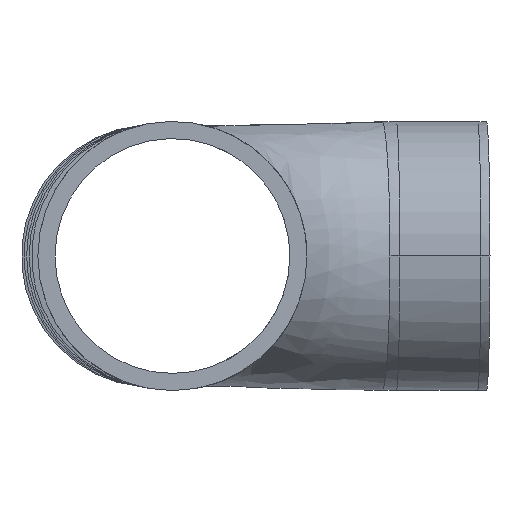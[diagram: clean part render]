
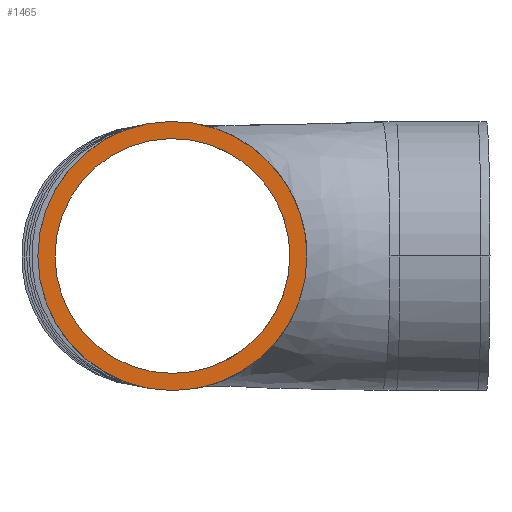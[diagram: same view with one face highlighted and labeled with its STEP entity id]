
A CAD part, front view. The second image highlights one B-rep face of the part: STEP entity #1465.
In plain terms, the highlighted planar face has unit normal (0, -1, 0).
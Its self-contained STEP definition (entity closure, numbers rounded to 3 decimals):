
#15=FACE_BOUND('',#308,.T.);
#21=PLANE('',#1590);
#229=FACE_OUTER_BOUND('',#307,.T.);
#307=EDGE_LOOP('',(#1200,#1201,#1202));
#308=EDGE_LOOP('',(#1203,#1204,#1205));
#330=CIRCLE('',#1502,45.188);
#342=CIRCLE('',#1530,45.187);
#371=CIRCLE('',#1591,45.189);
#372=CIRCLE('',#1592,39.438);
#373=CIRCLE('',#1593,39.437);
#374=CIRCLE('',#1594,39.438);
#514=VERTEX_POINT('',#1940);
#515=VERTEX_POINT('',#1942);
#581=VERTEX_POINT('',#2791);
#629=VERTEX_POINT('',#8626);
#630=VERTEX_POINT('',#8627);
#631=VERTEX_POINT('',#8629);
#657=EDGE_CURVE('',#514,#515,#330,.T.);
#745=EDGE_CURVE('',#581,#514,#342,.T.);
#829=EDGE_CURVE('',#515,#581,#371,.T.);
#830=EDGE_CURVE('',#629,#630,#372,.T.);
#831=EDGE_CURVE('',#630,#631,#373,.T.);
#832=EDGE_CURVE('',#631,#629,#374,.T.);
#1200=ORIENTED_EDGE('',*,*,#745,.F.);
#1201=ORIENTED_EDGE('',*,*,#829,.F.);
#1202=ORIENTED_EDGE('',*,*,#657,.F.);
#1203=ORIENTED_EDGE('',*,*,#830,.T.);
#1204=ORIENTED_EDGE('',*,*,#831,.T.);
#1205=ORIENTED_EDGE('',*,*,#832,.T.);
#1465=ADVANCED_FACE('',(#229,#15),#21,.T.);
#1502=AXIS2_PLACEMENT_3D('',#1943,#1627,#1628);
#1530=AXIS2_PLACEMENT_3D('',#2793,#1715,#1716);
#1590=AXIS2_PLACEMENT_3D('',#8624,#1857,#1858);
#1591=AXIS2_PLACEMENT_3D('',#8625,#1859,#1860);
#1592=AXIS2_PLACEMENT_3D('',#8628,#1861,#1862);
#1593=AXIS2_PLACEMENT_3D('',#8630,#1863,#1864);
#1594=AXIS2_PLACEMENT_3D('',#8631,#1865,#1866);
#1627=DIRECTION('center_axis',(0.,1.,0.));
#1628=DIRECTION('ref_axis',(-1.,0.,0.));
#1715=DIRECTION('center_axis',(0.,1.,0.));
#1716=DIRECTION('ref_axis',(1.,0.,0.));
#1857=DIRECTION('center_axis',(0.,-1.,0.));
#1858=DIRECTION('ref_axis',(0.,0.,-1.));
#1859=DIRECTION('center_axis',(0.,1.,0.));
#1860=DIRECTION('ref_axis',(0.316,0.,0.949));
#1861=DIRECTION('center_axis',(0.,1.,0.));
#1862=DIRECTION('ref_axis',(0.316,0.,0.949));
#1863=DIRECTION('center_axis',(0.,1.,0.));
#1864=DIRECTION('ref_axis',(1.,0.,0.));
#1865=DIRECTION('center_axis',(0.,1.,0.));
#1866=DIRECTION('ref_axis',(-1.,0.,0.));
#1940=CARTESIAN_POINT('',(-45.188,0.,0.));
#1942=CARTESIAN_POINT('',(14.29,0.,42.869));
#1943=CARTESIAN_POINT('Origin',(0.,0.,0.));
#2791=CARTESIAN_POINT('',(45.187,0.,0.));
#2793=CARTESIAN_POINT('Origin',(0.,0.,0.));
#8624=CARTESIAN_POINT('Origin',(0.,0.,0.));
#8625=CARTESIAN_POINT('Origin',(-0.001,0.,-0.001));
#8626=CARTESIAN_POINT('',(12.471,0.,37.414));
#8627=CARTESIAN_POINT('',(39.437,0.,0.));
#8628=CARTESIAN_POINT('Origin',(-0.001,0.,-0.001));
#8629=CARTESIAN_POINT('',(-39.438,0.,0.));
#8630=CARTESIAN_POINT('Origin',(0.,0.,0.));
#8631=CARTESIAN_POINT('Origin',(0.,0.,0.));
